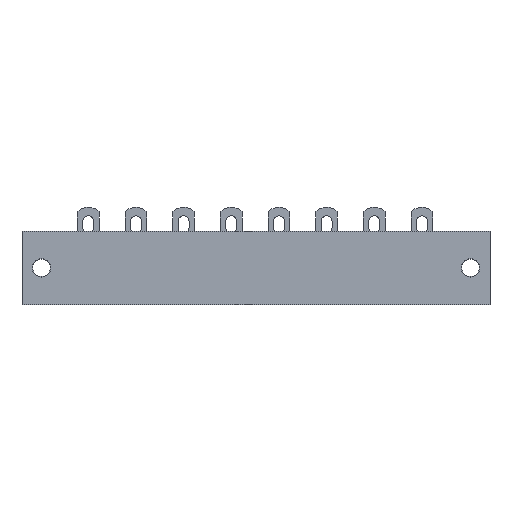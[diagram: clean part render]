
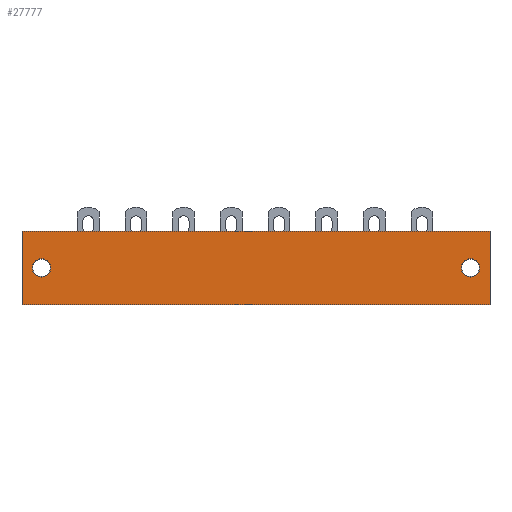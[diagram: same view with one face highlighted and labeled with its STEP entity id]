
A CAD part, front view. The second image highlights one B-rep face of the part: STEP entity #27777.
In plain terms, the highlighted planar face has unit normal (0, -1, 0).
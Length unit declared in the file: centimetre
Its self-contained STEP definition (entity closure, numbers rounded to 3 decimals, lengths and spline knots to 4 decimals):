
#1023=VECTOR('',#29370,1.);
#1541=VECTOR('',#30206,1.);
#3675=VECTOR('',#34543,1.);
#3676=VECTOR('',#34544,1.);
#4114=LINE('',#36135,#1023);
#4632=LINE('',#38038,#1541);
#6766=LINE('',#43808,#3675);
#6767=LINE('',#43809,#3676);
#7313=VERTEX_POINT('',#36136);
#7314=VERTEX_POINT('',#36137);
#7325=VERTEX_POINT('',#36161);
#7792=VERTEX_POINT('',#38039);
#7793=VERTEX_POINT('',#38040);
#7804=VERTEX_POINT('',#38064);
#9715=CIRCLE('',#43997,0.21);
#9763=CIRCLE('',#44239,0.21);
#10777=EDGE_CURVE('',#7313,#7314,#4114,.T.);
#10789=EDGE_CURVE('',#7325,#7325,#9715,.T.);
#11464=EDGE_CURVE('',#7792,#7793,#4632,.T.);
#11476=EDGE_CURVE('',#7804,#7804,#9763,.T.);
#14425=EDGE_CURVE('',#7793,#7313,#6766,.T.);
#14426=EDGE_CURVE('',#7314,#7792,#6767,.T.);
#22695=ORIENTED_EDGE('',*,*,#10789,.T.);
#22696=ORIENTED_EDGE('',*,*,#11476,.T.);
#22697=ORIENTED_EDGE('',*,*,#14425,.T.);
#22698=ORIENTED_EDGE('',*,*,#10777,.T.);
#22699=ORIENTED_EDGE('',*,*,#14426,.T.);
#22700=ORIENTED_EDGE('',*,*,#11464,.T.);
#24531=EDGE_LOOP('',(#22695));
#24532=EDGE_LOOP('',(#22696));
#24533=EDGE_LOOP('',(#22697,#22698,#22699,#22700));
#26243=FACE_BOUND('',#24531,.T.);
#26244=FACE_BOUND('',#24532,.T.);
#26245=FACE_BOUND('',#24533,.T.);
#27777=ADVANCED_FACE('',(#26243,#26244,#26245),#28769,.T.);
#28769=PLANE('',#45677);
#29370=DIRECTION('',(0.,0.,1.));
#29388=DIRECTION('',(0.,1.,0.));
#29389=DIRECTION('',(0.21,0.,0.));
#30206=DIRECTION('',(0.,0.,-1.));
#30224=DIRECTION('',(0.,1.,0.));
#30225=DIRECTION('',(-0.21,0.,0.));
#34542=DIRECTION('',(0.,-1.,0.));
#34543=DIRECTION('',(1.,0.,0.));
#34544=DIRECTION('',(-1.,0.,0.));
#36135=CARTESIAN_POINT('',(8.8,0.,0.85));
#36136=CARTESIAN_POINT('',(8.8,0.,-0.85));
#36137=CARTESIAN_POINT('',(8.8,0.,0.85));
#36160=CARTESIAN_POINT('',(8.35,0.,0.));
#36161=CARTESIAN_POINT('',(8.14,0.,0.));
#38038=CARTESIAN_POINT('',(-2.,0.,-0.85));
#38039=CARTESIAN_POINT('',(-2.,0.,0.85));
#38040=CARTESIAN_POINT('',(-2.,0.,-0.85));
#38063=CARTESIAN_POINT('',(-1.55,0.,0.));
#38064=CARTESIAN_POINT('',(-1.34,0.,0.));
#43807=CARTESIAN_POINT('',(0.,0.,0.));
#43808=CARTESIAN_POINT('',(0.,0.,-0.85));
#43809=CARTESIAN_POINT('',(-1.1,0.,0.85));
#43997=AXIS2_PLACEMENT_3D('',#36160,#29388,#29389);
#44239=AXIS2_PLACEMENT_3D('',#38063,#30224,#30225);
#45677=AXIS2_PLACEMENT_3D('',#43807,#34542,$);
